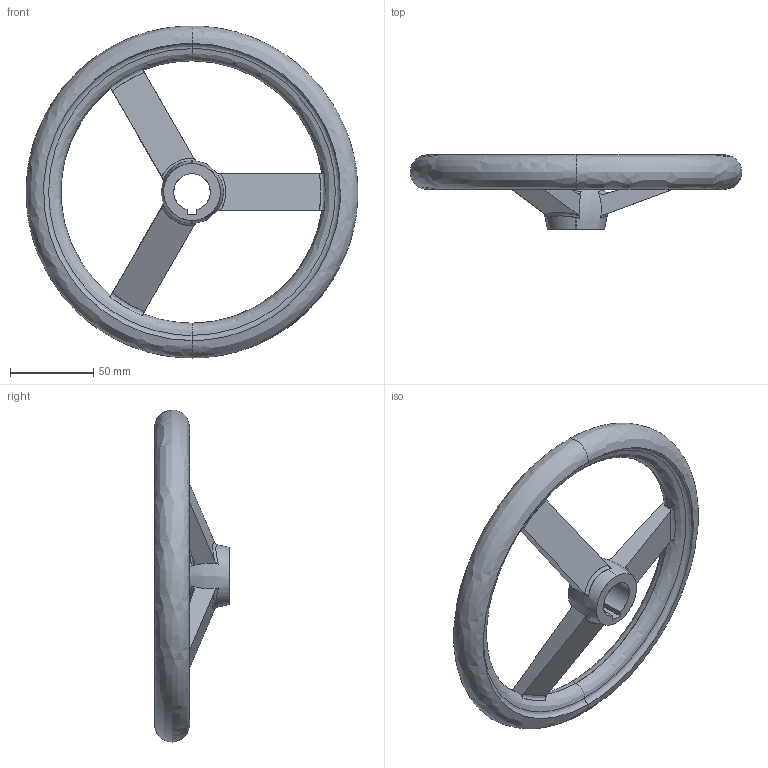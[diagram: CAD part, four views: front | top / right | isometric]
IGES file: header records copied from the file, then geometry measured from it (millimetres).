
Start section: SolidWorks IGES file using analytic representation for surfaces
Global section: file name: C:\Users\IanO\Desktop\Temp File\Process pending\77120_v2\77120_v2_20171108_IGES\77120.W0131.igs; native system: SolidWorks 2017; preprocessor: SolidWorks 2017; author: IanO; date: 171108.084224; units: millimetre
Bounding box: 200 x 45 x 200 mm (x, y, z)
Surface area: 54286.9 mm2 (no closed solid volume)
Topology: 0 solids, 0 shells, 45 faces, 939 edges, 932 vertices
Faces by surface type: bspline 44, revolution 1
